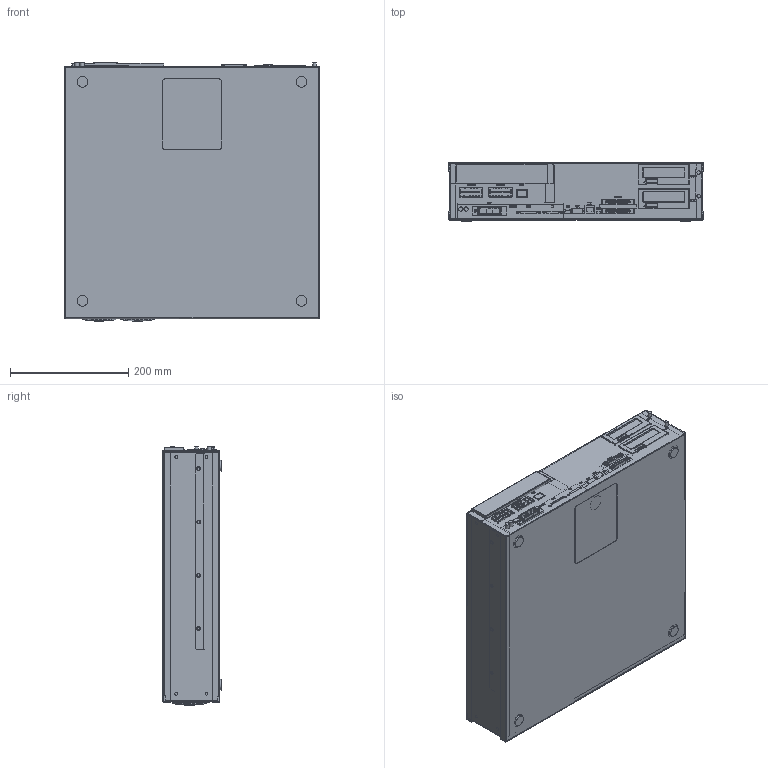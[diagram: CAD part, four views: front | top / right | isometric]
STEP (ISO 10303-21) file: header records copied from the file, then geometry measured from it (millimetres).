
FILE_DESCRIPTION (( 'STEP AP203' ), '1' );
FILE_NAME ('CR751.STEP', '2013-05-08T03:50:01', ( 'DC00561' ), ( 'MEE' ), 'SwSTEP 2.0', 'SolidWorks 2012', '' );
FILE_SCHEMA (( 'CONFIG_CONTROL_DESIGN' ));
Products named in the file (1): CR751
Bounding box: 430 x 98 x 438 mm (x, y, z)
Volume: 1127971.2 mm3; surface area: 1763131.9 mm2
Topology: 28 solids, 28 shells, 4710 faces, 12476 edges, 8143 vertices
Faces by surface type: plane 3738, cylinder 542, bspline 410, cone 16, torus 4
Full cylindrical faces by diameter (mm): 0.5 x2, 0.6 x6, 0.89 x8, 1 x4, 1.75 x2, 2.3 x4, 3.25 x2, 3.5 x4, 3.7 x24, 4 x26, 4.3 x4, 4.5 x6, 4.9 x8, 5 x20, 6 x24, 6.4 x20, 7.15 x5, 16 x2, 18 x4, 29.7 x2, 39.9 x2, 43.1 x2, 53.3 x2, 56.5 x2
Entity records: 149705 total; most frequent: CARTESIAN_POINT 35894, ORIENTED_EDGE 24324, DIRECTION 21159, EDGE_CURVE 12162, LINE 10131, VECTOR 10131, VERTEX_POINT 8094, AXIS2_PLACEMENT_3D 5514
